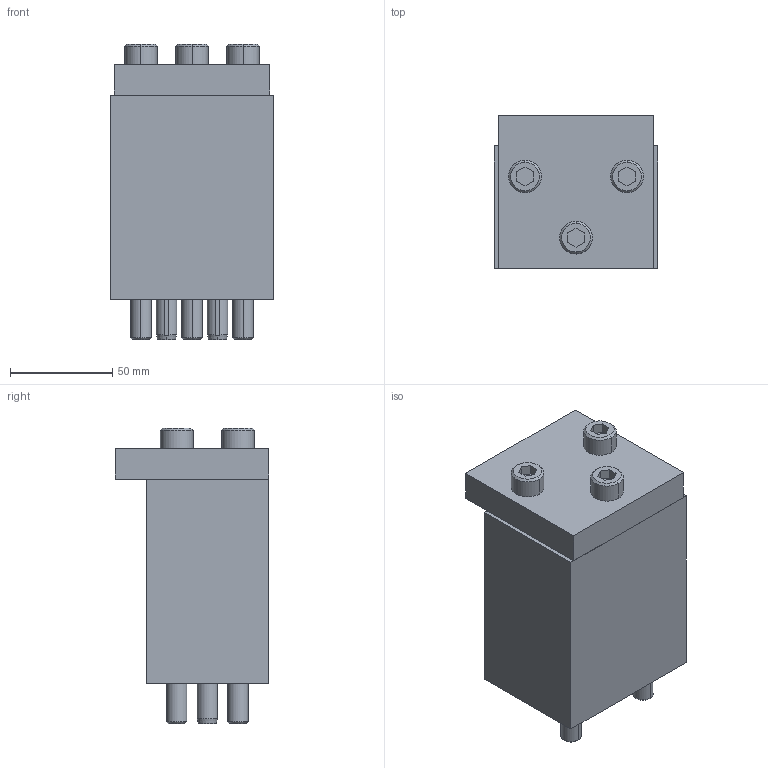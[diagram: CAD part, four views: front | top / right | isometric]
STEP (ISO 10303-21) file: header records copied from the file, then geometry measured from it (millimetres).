
FILE_DESCRIPTION((''),'2;1');
FILE_NAME('','2010-09-07T14:30:30+09:00',('misumi'),(''),'M/STEP i/f 1R2-14','CADmeister v5.1','');
FILE_SCHEMA(('AUTOMOTIVE_DESIGN'));
Length unit declared in the file: millimetre
Products named in the file (1): KEPN80-100-15
Bounding box: 80 x 75 x 145 mm (x, y, z)
Volume: 507948.8 mm3; surface area: 95449.2 mm2
Topology: 10 solids, 10 shells, 190 faces, 413 edges, 267 vertices
Faces by surface type: plane 90, cylinder 68, cone 32
Entity records: 5442 total; most frequent: DIRECTION 958, CARTESIAN_POINT 892, ORIENTED_EDGE 820, EDGE_CURVE 410, AXIS2_PLACEMENT_3D 362, VERTEX_POINT 264, LINE 234, VECTOR 234
